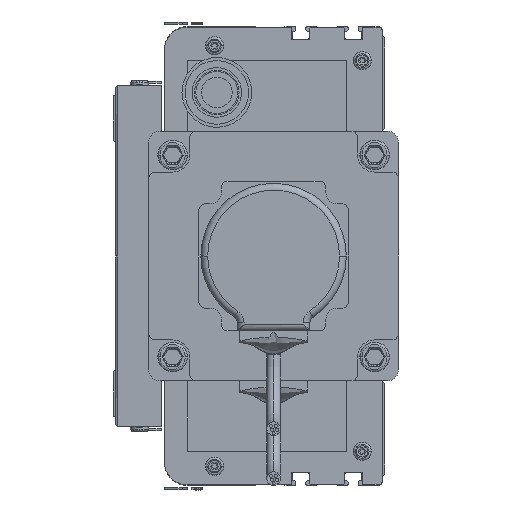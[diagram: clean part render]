
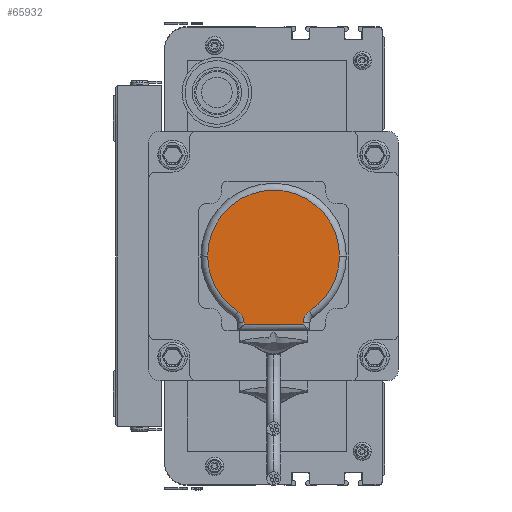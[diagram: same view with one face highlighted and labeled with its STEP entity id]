
A CAD part, left-side view. The second image highlights one B-rep face of the part: STEP entity #65932.
In plain terms, the highlighted planar face has unit normal (-1, 0, 0) as drawn and (0, 0, 1) by its records, which use the part's own axes.
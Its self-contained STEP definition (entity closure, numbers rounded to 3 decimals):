
#38723 = DIRECTION ( 'NONE',  ( 0., -1., 0. ) ) ;
#38725 = VECTOR ( 'NONE', #38723, 1000. ) ;
#38726 = CARTESIAN_POINT ( 'NONE',  ( 20., 33., 25. ) ) ;
#38733 = LINE ( 'NONE', #38726, #38725 ) ;
#38968 = CARTESIAN_POINT ( 'NONE',  ( 17.5, 63., 25. ) ) ;
#39047 = DIRECTION ( 'NONE',  ( -1., 0., 0. ) ) ;
#39048 = VECTOR ( 'NONE', #39047, 1000. ) ;
#39057 = LINE ( 'NONE', #38968, #39048 ) ;
#40870 = DIRECTION ( 'NONE',  ( 1., 0., 0. ) ) ;
#40872 = DIRECTION ( 'NONE',  ( 0., 0., 1. ) ) ;
#40874 = CARTESIAN_POINT ( 'NONE',  ( 33., 33., 25. ) ) ;
#40876 = AXIS2_PLACEMENT_3D ( 'NONE', #40874, #40872, #40870 ) ;
#40892 = CIRCLE ( 'NONE', #40876, 29. ) ;
#41175 = CARTESIAN_POINT ( 'NONE',  ( 62., 33., 25. ) ) ;
#42736 = DIRECTION ( 'NONE',  ( 1., 0., 0. ) ) ;
#42738 = DIRECTION ( 'NONE',  ( 0., 0., 1. ) ) ;
#42739 = CARTESIAN_POINT ( 'NONE',  ( 33., 33., 25. ) ) ;
#42741 = AXIS2_PLACEMENT_3D ( 'NONE', #42739, #42738, #42736 ) ;
#42743 = CIRCLE ( 'NONE', #42741, 29. ) ;
#53840 = AXIS2_PLACEMENT_3D ( 'NONE', #53867, #53941, #53939 ) ;
#53862 = CIRCLE ( 'NONE', #53840, 29. ) ;
#53867 = CARTESIAN_POINT ( 'NONE',  ( 33., 33., 25. ) ) ;
#53939 = DIRECTION ( 'NONE',  ( 1., 0., 0. ) ) ;
#53941 = DIRECTION ( 'NONE',  ( 0., 0., 1. ) ) ;
#53957 = CARTESIAN_POINT ( 'NONE',  ( 4., 33., 25. ) ) ;
#54029 = CARTESIAN_POINT ( 'NONE',  ( 17.257, 57.355, 25. ) ) ;
#62858 = EDGE_CURVE ( 'NONE', #65204, #65646, #38733, .T. ) ;
#63002 = EDGE_CURVE ( 'NONE', #65527, #65204, #39057, .T. ) ;
#63865 = EDGE_CURVE ( 'NONE', #63947, #65207, #40892, .T. ) ;
#63947 = VERTEX_POINT ( 'NONE', #41175 ) ;
#64148 = EDGE_LOOP ( 'NONE', ( #65050, #66360, #65338, #65495, #65683, #65681, #66332, #65408 ) ) ;
#64243 = EDGE_CURVE ( 'NONE', #70517, #63947, #42743, .T. ) ;
#65050 = ORIENTED_EDGE ( 'NONE', *, *, #65886, .F. ) ;
#65164 = EDGE_CURVE ( 'NONE', #66242, #65527, #106793, .T. ) ;
#65204 = VERTEX_POINT ( 'NONE', #107117 ) ;
#65207 = VERTEX_POINT ( 'NONE', #107129 ) ;
#65338 = ORIENTED_EDGE ( 'NONE', *, *, #64243, .T. ) ;
#65408 = ORIENTED_EDGE ( 'NONE', *, *, #62858, .T. ) ;
#65495 = ORIENTED_EDGE ( 'NONE', *, *, #63865, .T. ) ;
#65527 = VERTEX_POINT ( 'NONE', #108556 ) ;
#65646 = VERTEX_POINT ( 'NONE', #109139 ) ;
#65681 = ORIENTED_EDGE ( 'NONE', *, *, #65164, .T. ) ;
#65683 = ORIENTED_EDGE ( 'NONE', *, *, #65992, .F. ) ;
#65886 = EDGE_CURVE ( 'NONE', #70596, #65646, #111035, .T. ) ;
#65932 = ADVANCED_FACE ( 'NONE', ( #110582 ), #110576, .T. ) ;
#65992 = EDGE_CURVE ( 'NONE', #66242, #65207, #111283, .T. ) ;
#66242 = VERTEX_POINT ( 'NONE', #112220 ) ;
#66332 = ORIENTED_EDGE ( 'NONE', *, *, #63002, .T. ) ;
#66360 = ORIENTED_EDGE ( 'NONE', *, *, #70478, .T. ) ;
#70478 = EDGE_CURVE ( 'NONE', #70596, #70517, #53862, .T. ) ;
#70517 = VERTEX_POINT ( 'NONE', #53957 ) ;
#70596 = VERTEX_POINT ( 'NONE', #54029 ) ;
#106753 = DIRECTION ( 'NONE',  ( 0., 1., 0. ) ) ;
#106755 = VECTOR ( 'NONE', #106753, 1000. ) ;
#106756 = CARTESIAN_POINT ( 'NONE',  ( 46., 33., 25. ) ) ;
#106793 = LINE ( 'NONE', #106756, #106755 ) ;
#107117 = CARTESIAN_POINT ( 'NONE',  ( 20., 63., 25. ) ) ;
#107129 = CARTESIAN_POINT ( 'NONE',  ( 48.743, 57.355, 25. ) ) ;
#108556 = CARTESIAN_POINT ( 'NONE',  ( 46., 63., 25. ) ) ;
#109029 = CARTESIAN_POINT ( 'NONE',  ( 33., 33., 25. ) ) ;
#109033 = DIRECTION ( 'NONE',  ( 0., 0., 1. ) ) ;
#109139 = CARTESIAN_POINT ( 'NONE',  ( 20., 62.394, 25. ) ) ;
#110557 = AXIS2_PLACEMENT_3D ( 'NONE', #109029, #109033, #111106 ) ;
#110576 = PLANE ( 'NONE',  #110557 ) ;
#110582 = FACE_OUTER_BOUND ( 'NONE', #64148, .T. ) ;
#110826 = CARTESIAN_POINT ( 'NONE',  ( 14., 62.394, 25. ) ) ;
#110985 = DIRECTION ( 'NONE',  ( 1., 0., 0. ) ) ;
#110986 = DIRECTION ( 'NONE',  ( 0., 0., 1. ) ) ;
#111006 = AXIS2_PLACEMENT_3D ( 'NONE', #110826, #110986, #110985 ) ;
#111035 = CIRCLE ( 'NONE', #111006, 6. ) ;
#111106 = DIRECTION ( 'NONE',  ( 1., 0., 0. ) ) ;
#111271 = DIRECTION ( 'NONE',  ( 1., 0., 0. ) ) ;
#111273 = DIRECTION ( 'NONE',  ( 0., 0., 1. ) ) ;
#111274 = CARTESIAN_POINT ( 'NONE',  ( 52., 62.394, 25. ) ) ;
#111275 = AXIS2_PLACEMENT_3D ( 'NONE', #111274, #111273, #111271 ) ;
#111283 = CIRCLE ( 'NONE', #111275, 6. ) ;
#112220 = CARTESIAN_POINT ( 'NONE',  ( 46., 62.394, 25. ) ) ;
